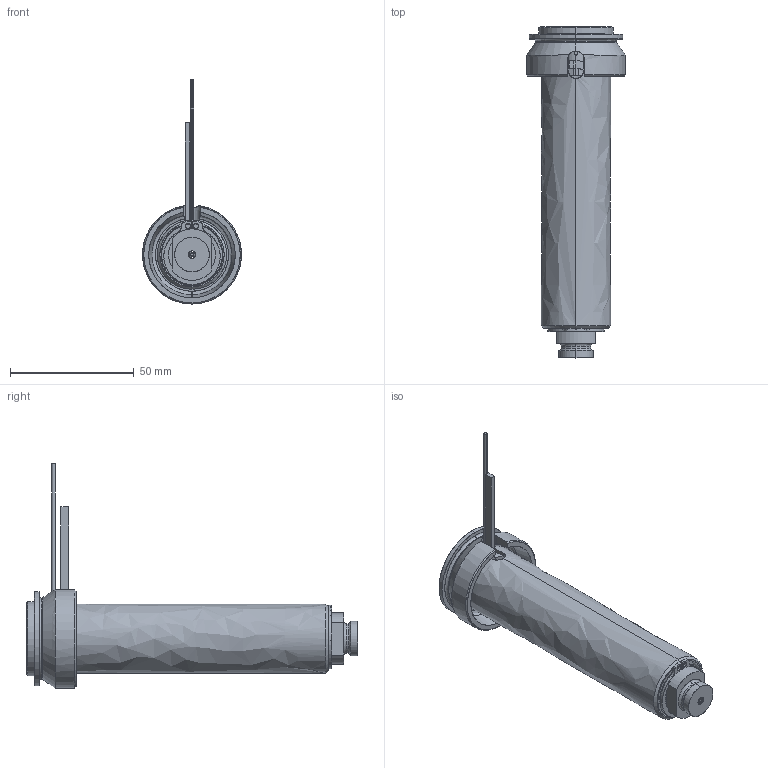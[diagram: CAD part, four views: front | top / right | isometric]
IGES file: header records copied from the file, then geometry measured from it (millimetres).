
Start section: SolidWorks IGES file using analytic representation for surfaces
Global section: file name: C:\Documents and Settings\ws-20\Desktop\TEM\UGEP4103-M-A-1 [Øf-1.31 P-0 ØC-09].IGS; native system: SolidWorks 2012; preprocessor: SolidWorks 2012; author: ws-20; date: 120426.085031; units: millimetre
Bounding box: 40 x 134.25 x 90.65 mm (x, y, z)
Surface area: 40881.6 mm2 (no closed solid volume)
Topology: 0 solids, 0 shells, 110 faces, 1782 edges, 1782 vertices
Faces by surface type: revolution 64, bspline 46
